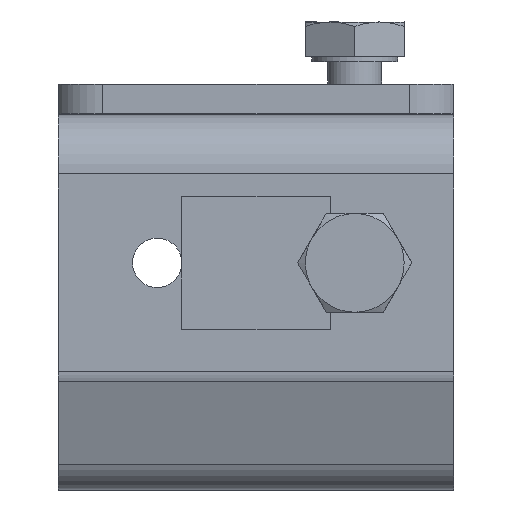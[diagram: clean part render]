
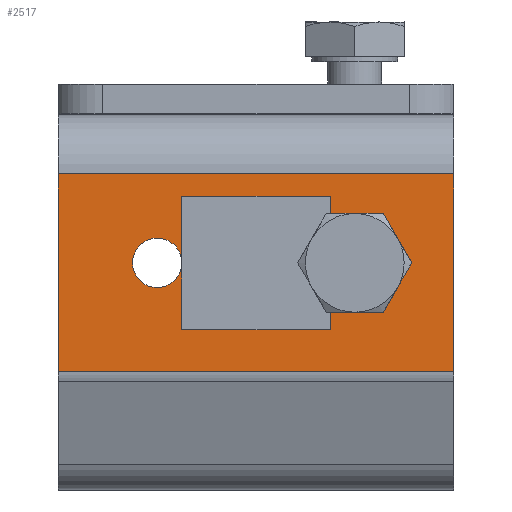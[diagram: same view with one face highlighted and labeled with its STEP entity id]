
A CAD part, left-side view. The second image highlights one B-rep face of the part: STEP entity #2517.
In plain terms, the highlighted planar face has unit normal (-1, 0, 0).
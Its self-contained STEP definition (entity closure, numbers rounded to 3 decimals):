
#156=FACE_BOUND('',#908,.T.);
#157=FACE_BOUND('',#909,.T.);
#220=LINE('',#4307,#401);
#259=LINE('',#4412,#440);
#261=LINE('',#4416,#442);
#263=LINE('',#4420,#444);
#265=LINE('',#4424,#446);
#266=LINE('',#4426,#447);
#268=LINE('',#4437,#449);
#271=LINE('',#4444,#452);
#275=LINE('',#4457,#456);
#401=VECTOR('',#3331,10.);
#440=VECTOR('',#3440,10.);
#442=VECTOR('',#3444,10.);
#444=VECTOR('',#3448,10.);
#446=VECTOR('',#3452,10.);
#447=VECTOR('',#3455,10.);
#449=VECTOR('',#3467,10.);
#452=VECTOR('',#3474,10.);
#456=VECTOR('',#3494,10.);
#582=PLANE('',#2849);
#716=FACE_OUTER_BOUND('',#907,.T.);
#907=EDGE_LOOP('',(#2157,#2158,#2159,#2160));
#908=EDGE_LOOP('',(#2161,#2162));
#909=EDGE_LOOP('',(#2163,#2164,#2165,#2166,#2167,#2168));
#1081=CIRCLE('',#2825,2.5);
#1084=CIRCLE('',#2835,2.459);
#1085=CIRCLE('',#2836,2.459);
#1235=VERTEX_POINT('',#4292);
#1238=VERTEX_POINT('',#4300);
#1261=VERTEX_POINT('',#4389);
#1269=VERTEX_POINT('',#4410);
#1270=VERTEX_POINT('',#4414);
#1271=VERTEX_POINT('',#4418);
#1272=VERTEX_POINT('',#4422);
#1273=VERTEX_POINT('',#4428);
#1274=VERTEX_POINT('',#4429);
#1276=VERTEX_POINT('',#4436);
#1278=VERTEX_POINT('',#4443);
#1509=EDGE_CURVE('',#1238,#1235,#220,.T.);
#1549=EDGE_CURVE('',#1261,#1261,#1081,.T.);
#1561=EDGE_CURVE('',#1261,#1269,#259,.T.);
#1563=EDGE_CURVE('',#1269,#1270,#261,.T.);
#1565=EDGE_CURVE('',#1270,#1271,#263,.T.);
#1567=EDGE_CURVE('',#1271,#1272,#265,.T.);
#1568=EDGE_CURVE('',#1272,#1261,#266,.T.);
#1569=EDGE_CURVE('',#1273,#1274,#1084,.T.);
#1570=EDGE_CURVE('',#1274,#1273,#1085,.T.);
#1573=EDGE_CURVE('',#1276,#1238,#268,.T.);
#1577=EDGE_CURVE('',#1278,#1276,#271,.T.);
#1584=EDGE_CURVE('',#1235,#1278,#275,.T.);
#2157=ORIENTED_EDGE('',*,*,#1509,.T.);
#2158=ORIENTED_EDGE('',*,*,#1584,.T.);
#2159=ORIENTED_EDGE('',*,*,#1577,.T.);
#2160=ORIENTED_EDGE('',*,*,#1573,.T.);
#2161=ORIENTED_EDGE('',*,*,#1569,.T.);
#2162=ORIENTED_EDGE('',*,*,#1570,.T.);
#2163=ORIENTED_EDGE('',*,*,#1549,.T.);
#2164=ORIENTED_EDGE('',*,*,#1561,.T.);
#2165=ORIENTED_EDGE('',*,*,#1563,.T.);
#2166=ORIENTED_EDGE('',*,*,#1565,.T.);
#2167=ORIENTED_EDGE('',*,*,#1567,.T.);
#2168=ORIENTED_EDGE('',*,*,#1568,.T.);
#2517=ADVANCED_FACE('',(#716,#156,#157),#582,.T.);
#2825=AXIS2_PLACEMENT_3D('',#4390,#3421,#3422);
#2835=AXIS2_PLACEMENT_3D('',#4430,#3458,#3459);
#2836=AXIS2_PLACEMENT_3D('',#4431,#3460,#3461);
#2849=AXIS2_PLACEMENT_3D('',#4458,#3495,#3496);
#3331=DIRECTION('',(0.,1.,0.));
#3421=DIRECTION('center_axis',(1.,0.,0.));
#3422=DIRECTION('ref_axis',(0.,0.,
-1.));
#3440=DIRECTION('',(0.,0.,1.));
#3444=DIRECTION('',(0.,-1.,0.));
#3448=DIRECTION('',(0.,0.,-1.));
#3452=DIRECTION('',(0.,1.,0.));
#3455=DIRECTION('',(0.,0.,1.));
#3458=DIRECTION('center_axis',(1.,0.,0.));
#3459=DIRECTION('ref_axis',(0.,0.,
1.));
#3460=DIRECTION('center_axis',(1.,0.,0.));
#3461=DIRECTION('ref_axis',(0.,0.,
1.));
#3467=DIRECTION('',(0.,0.,1.));
#3474=DIRECTION('',(0.,-1.,0.));
#3494=DIRECTION('',(0.,0.,-1.));
#3495=DIRECTION('center_axis',(-1.,0.,0.));
#3496=DIRECTION('ref_axis',(0.,0.,
1.));
#4292=CARTESIAN_POINT('',(-19.,20.,-6.));
#4300=CARTESIAN_POINT('',(-19.,-20.,-6.));
#4307=CARTESIAN_POINT('',(-19.,10.,-6.));
#4389=CARTESIAN_POINT('',(-19.,7.5,-15.));
#4390=CARTESIAN_POINT('Origin',(-19.,10.,-15.));
#4410=CARTESIAN_POINT('',(-19.,7.5,-8.25));
#4412=CARTESIAN_POINT('',(-19.,7.5,29.609));
#4414=CARTESIAN_POINT('',(-19.,-7.5,-8.25));
#4416=CARTESIAN_POINT('',(-19.,-3.75,-8.25));
#4418=CARTESIAN_POINT('',(-19.,-7.5,-21.75));
#4420=CARTESIAN_POINT('',(-19.,-7.5,22.859));
#4422=CARTESIAN_POINT('',(-19.,7.5,-21.75));
#4424=CARTESIAN_POINT('',(-19.,3.75,-21.75));
#4426=CARTESIAN_POINT('',(-19.,7.5,29.609));
#4428=CARTESIAN_POINT('',(-19.,-10.,-12.541));
#4429=CARTESIAN_POINT('',(-19.,-10.,-17.458));
#4430=CARTESIAN_POINT('Origin',(-19.,-10.,-15.));
#4431=CARTESIAN_POINT('Origin',(-19.,-10.,-15.));
#4436=CARTESIAN_POINT('',(-19.,-20.,-26.));
#4437=CARTESIAN_POINT('',(-19.,-20.,-41.436));
#4443=CARTESIAN_POINT('',(-19.,20.,-26.));
#4444=CARTESIAN_POINT('',(-19.,-10.,-26.));
#4457=CARTESIAN_POINT('',(-19.,20.,69.437));
#4458=CARTESIAN_POINT('Origin',(-19.,0.,67.468));
